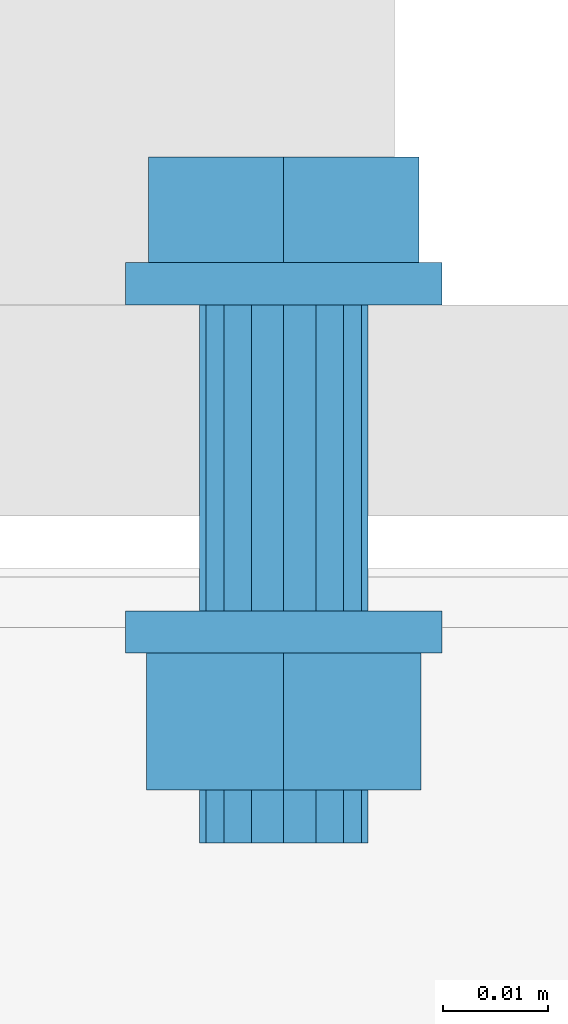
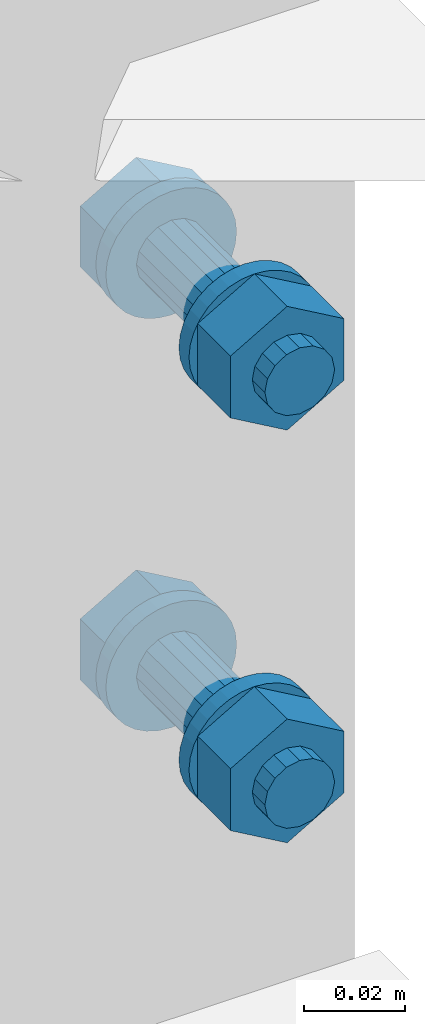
# One storey, part 21 of 21: 2 mechanical fasteners.
"""IFC4X3_ADD2 building model written with IfcOpenShell, lengths in millimetres."""

from ifc_helpers import new_model, entity, si_unit, converted_unit, derived_unit, direction, frame, origin, place, context, project, spatial, faceted_brep, element, save


model = new_model("IFC4X3_ADD2")

# Units and contexts
model_context = context("Model", 3, precision=0.01, world=origin(), true_north=direction((6.123233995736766e-17, 1.0)))
plan_context = context("Plan", 3, precision=0.01, world=origin(), true_north=direction((6.123233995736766e-17, 1.0)))
ifc_project = project(units=[si_unit("LENGTHUNIT", "METRE", prefix="MILLI"), converted_unit("PLANEANGLEUNIT", "DEGREE", entity("IfcPlaneAngleMeasure", 0.017453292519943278), si_unit("PLANEANGLEUNIT", "RADIAN"), dimensions=[0, 0, 0, 0, 0, 0, 0]), si_unit("AREAUNIT", "SQUARE_METRE"), si_unit("VOLUMEUNIT", "CUBIC_METRE"), derived_unit("THERMALTRANSMITTANCEUNIT", [(si_unit("MASSUNIT", "GRAM", prefix="KILO"), 1), (si_unit("THERMODYNAMICTEMPERATUREUNIT", "KELVIN"), -1), (si_unit("TIMEUNIT", "SECOND"), -3)]), derived_unit("USERDEFINED", [(si_unit("MASSUNIT", "GRAM", prefix="KILO"), 1), (si_unit("THERMODYNAMICTEMPERATUREUNIT", "KELVIN"), -1), (si_unit("TIMEUNIT", "SECOND"), -2)]), derived_unit("THERMALRESISTANCEUNIT", [(si_unit("MASSUNIT", "GRAM", prefix="KILO"), -1), (si_unit("TIMEUNIT", "SECOND"), 3), (si_unit("THERMODYNAMICTEMPERATUREUNIT", "KELVIN"), 1)]), si_unit("MASSUNIT", "GRAM", prefix="KILO"), derived_unit("MOMENTOFINERTIAUNIT", [(si_unit("LENGTHUNIT", "METRE"), 4)]), derived_unit("LINEARFORCEUNIT", [(si_unit("MASSUNIT", "GRAM", prefix="KILO"), 1), (si_unit("TIMEUNIT", "SECOND"), -2)]), derived_unit("WARPINGCONSTANTUNIT", [(si_unit("LENGTHUNIT", "METRE"), 6)]), si_unit("PRESSUREUNIT", "PASCAL"), derived_unit("MASSDENSITYUNIT", [(si_unit("MASSUNIT", "GRAM", prefix="KILO"), 1), (si_unit("LENGTHUNIT", "METRE"), -3)]), derived_unit("MODULUSOFELASTICITYUNIT", [(si_unit("MASSUNIT", "GRAM", prefix="KILO"), 1), (si_unit("TIMEUNIT", "SECOND"), -2), (si_unit("LENGTHUNIT", "METRE"), -1)]), derived_unit("THERMALEXPANSIONCOEFFICIENTUNIT", [(si_unit("THERMODYNAMICTEMPERATUREUNIT", "KELVIN"), -1)]), derived_unit("VAPORPERMEABILITYUNIT", [(si_unit("LENGTHUNIT", "METRE"), -1), (si_unit("TIMEUNIT", "SECOND"), 1)]), derived_unit("USERDEFINED", [(si_unit("MASSUNIT", "GRAM", prefix="KILO"), 1), (si_unit("TIMEUNIT", "SECOND"), -3), (si_unit("LENGTHUNIT", "METRE"), 3), (si_unit("ELECTRICCURRENTUNIT", "AMPERE"), -2)]), derived_unit("SPECIFICHEATCAPACITYUNIT", [(si_unit("THERMODYNAMICTEMPERATUREUNIT", "KELVIN"), -1), (si_unit("TIMEUNIT", "SECOND"), -2), (si_unit("LENGTHUNIT", "METRE"), 2)]), derived_unit("THERMALCONDUCTANCEUNIT", [(si_unit("MASSUNIT", "GRAM", prefix="KILO"), 1), (si_unit("THERMODYNAMICTEMPERATUREUNIT", "KELVIN"), -1), (si_unit("TIMEUNIT", "SECOND"), -3), (si_unit("LENGTHUNIT", "METRE"), 1)])], contexts=[model_context, plan_context])

# Site, building, storey
site_placement = place(None, origin())
site = spatial("IfcSite", under=ifc_project, at=site_placement, Name="Default", CompositionType="ELEMENT")
building_placement = place(site_placement, origin())
building = spatial("IfcBuilding", under=site, at=building_placement, Name="Complex structure", CompositionType="ELEMENT")
storey_placement = place(building_placement, frame((0.0, 0.0, 3000.0)))
storey = spatial("IfcBuildingStorey", under=building, at=storey_placement, Name="Level 01", CompositionType="ELEMENT", Elevation=3000.0)

# Mechanical fasteners
mechanical_fastener_1_placement = place(storey_placement, frame((0.0, 0.0, -3000.0)))
element("IfcMechanicalFastener", 1, at=mechanical_fastener_1_placement, inside=storey, ObjectType="Bolt#7", NominalDiameter=16.0, NominalLength=55.0, context=model_context, shape_type="Brep", body=[
    faceted_brep([(-1081.026350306, -1182.866703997, 3703.0), (-1081.026350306, -1186.866703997, 3703.0), (-1081.3145711, -1186.866703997, 3700.07364517), (-1081.3145711, -1182.866703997, 3700.07364517), (-1082.168157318, -1186.866703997, 3697.259748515), (-1082.168157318, -1182.866703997, 3697.259748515), (-1083.554306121, -1186.866703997, 3694.666446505), (-1083.554306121, -1182.866703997, 3694.666446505), (-1085.419748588, -1186.866703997, 3692.393398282), (-1085.419748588, -1182.866703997, 3692.393398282), (-1087.692796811, -1186.866703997, 3690.527955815), (-1087.692796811, -1182.866703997, 3690.527955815), (-1090.28609882, -1186.866703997, 3689.141807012), (-1090.28609882, -1182.866703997, 3689.141807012), (-1093.099995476, -1186.866703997, 3688.288220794), (-1093.099995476, -1182.866703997, 3688.288220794), (-1096.026350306, -1186.866703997, 3688.0), (-1096.026350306, -1182.866703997, 3688.0), (-1098.952705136, -1186.866703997, 3688.288220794), (-1098.952705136, -1182.866703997, 3688.288220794), (-1101.766601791, -1186.866703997, 3689.141807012), (-1101.766601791, -1182.866703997, 3689.141807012), (-1104.359903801, -1186.866703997, 3690.527955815), (-1104.359903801, -1182.866703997, 3690.527955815), (-1106.632952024, -1186.866703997, 3692.393398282), (-1106.632952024, -1182.866703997, 3692.393398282), (-1108.49839449, -1186.866703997, 3694.666446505), (-1108.49839449, -1182.866703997, 3694.666446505), (-1109.884543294, -1186.866703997, 3697.259748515), (-1109.884543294, -1182.866703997, 3697.259748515), (-1110.738129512, -1186.866703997, 3700.07364517), (-1110.738129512, -1182.866703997, 3700.07364517), (-1111.026350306, -1186.866703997, 3703.0), (-1111.026350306, -1182.866703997, 3703.0), (-1110.738129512, -1186.866703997, 3705.92635483), (-1110.738129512, -1182.866703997, 3705.92635483), (-1109.884543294, -1186.866703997, 3708.740251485), (-1109.884543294, -1182.866703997, 3708.740251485), (-1108.49839449, -1186.866703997, 3711.333553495), (-1108.49839449, -1182.866703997, 3711.333553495), (-1106.632952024, -1186.866703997, 3713.606601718), (-1106.632952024, -1182.866703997, 3713.606601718), (-1104.359903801, -1186.866703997, 3715.472044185), (-1104.359903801, -1182.866703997, 3715.472044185), (-1101.766601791, -1186.866703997, 3716.858192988), (-1101.766601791, -1182.866703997, 3716.858192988), (-1098.952705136, -1186.866703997, 3717.711779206), (-1098.952705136, -1182.866703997, 3717.711779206), (-1096.026350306, -1186.866703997, 3718.0), (-1096.026350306, -1182.866703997, 3718.0), (-1093.099995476, -1186.866703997, 3717.711779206), (-1093.099995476, -1182.866703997, 3717.711779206), (-1090.28609882, -1186.866703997, 3716.858192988), (-1090.28609882, -1182.866703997, 3716.858192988), (-1087.692796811, -1186.866703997, 3715.472044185), (-1087.692796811, -1182.866703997, 3715.472044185), (-1085.419748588, -1186.866703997, 3713.606601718), (-1085.419748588, -1182.866703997, 3713.606601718), (-1083.554306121, -1186.866703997, 3711.333553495), (-1083.554306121, -1182.866703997, 3711.333553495), (-1082.168157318, -1186.866703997, 3708.740251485), (-1082.168157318, -1182.866703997, 3708.740251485), (-1081.3145711, -1186.866703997, 3705.92635483), (-1081.3145711, -1182.866703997, 3705.92635483)], [[[0, 1, 2, 3]], [[3, 2, 4, 5]], [[5, 4, 6, 7]], [[7, 6, 8, 9]], [[9, 8, 10, 11]], [[11, 10, 12, 13]], [[13, 12, 14, 15]], [[15, 14, 16, 17]], [[17, 16, 18, 19]], [[19, 18, 20, 21]], [[21, 20, 22, 23]], [[23, 22, 24, 25]], [[25, 24, 26, 27]], [[27, 26, 28, 29]], [[29, 28, 30, 31]], [[31, 30, 32, 33]], [[33, 32, 34, 35]], [[35, 34, 36, 37]], [[37, 36, 38, 39]], [[39, 38, 40, 41]], [[41, 40, 42, 43]], [[43, 42, 44, 45]], [[45, 44, 46, 47]], [[47, 46, 48, 49]], [[49, 48, 50, 51]], [[51, 50, 52, 53]], [[53, 52, 54, 55]], [[55, 54, 56, 57]], [[57, 56, 58, 59]], [[59, 58, 60, 61]], [[61, 60, 62, 63]], [[63, 62, 1, 0]], [[0, 3, 5, 7, 9, 11, 13, 15, 17, 19, 21, 23, 25, 27, 29, 31, 33, 35, 37, 39, 41, 43, 45, 47, 49, 51, 53, 55, 57, 59, 61, 63]], [[1, 62, 60, 58, 56, 54, 52, 50, 48, 46, 44, 42, 40, 38, 36, 34, 32, 30, 28, 26, 24, 22, 20, 18, 16, 14, 12, 10, 8, 6, 4, 2]]]),
    faceted_brep([(-1108.826205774, -1182.866703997, 3695.61), (-1108.826205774, -1172.866703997, 3695.61), (-1096.026350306, -1172.866703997, 3688.22), (-1096.026350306, -1182.866703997, 3688.22), (-1083.226494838, -1172.866703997, 3695.61), (-1083.226494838, -1182.866703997, 3695.61), (-1083.226494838, -1172.866703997, 3710.39), (-1083.226494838, -1182.866703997, 3710.39), (-1096.026350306, -1172.866703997, 3717.78), (-1096.026350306, -1182.866703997, 3717.78), (-1108.826205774, -1172.866703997, 3710.39), (-1108.826205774, -1182.866703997, 3710.39)], [[[0, 1, 2, 3]], [[3, 2, 4, 5]], [[5, 4, 6, 7]], [[7, 6, 8, 9]], [[9, 8, 10, 11]], [[11, 10, 1, 0]], [[4, 2, 1, 10, 8, 6]], [[0, 3, 5, 7, 9, 11]]]),
    faceted_brep([(-1088.026350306, -1186.866703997, 3703.0), (-1088.026350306, -1215.866703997, 3703.0), (-1088.635314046, -1215.866703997, 3699.938532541), (-1088.635314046, -1186.866703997, 3699.938532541), (-1090.369496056, -1215.866703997, 3697.343145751), (-1090.369496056, -1186.866703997, 3697.343145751), (-1092.964882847, -1215.866703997, 3695.60896374), (-1092.964882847, -1186.866703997, 3695.60896374), (-1096.026350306, -1215.866703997, 3695.0), (-1096.026350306, -1186.866703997, 3695.0), (-1099.087817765, -1215.866703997, 3695.60896374), (-1099.087817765, -1186.866703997, 3695.60896374), (-1101.683204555, -1215.866703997, 3697.343145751), (-1101.683204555, -1186.866703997, 3697.343145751), (-1103.417386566, -1215.866703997, 3699.938532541), (-1103.417386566, -1186.866703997, 3699.938532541), (-1104.026350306, -1215.866703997, 3703.0), (-1104.026350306, -1186.866703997, 3703.0), (-1103.417386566, -1215.866703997, 3706.061467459), (-1103.417386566, -1186.866703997, 3706.061467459), (-1101.683204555, -1215.866703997, 3708.656854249), (-1101.683204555, -1186.866703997, 3708.656854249), (-1099.087817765, -1215.866703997, 3710.39103626), (-1099.087817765, -1186.866703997, 3710.39103626), (-1096.026350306, -1215.866703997, 3711.0), (-1096.026350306, -1186.866703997, 3711.0), (-1092.964882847, -1215.866703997, 3710.39103626), (-1092.964882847, -1186.866703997, 3710.39103626), (-1090.369496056, -1215.866703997, 3708.656854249), (-1090.369496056, -1186.866703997, 3708.656854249), (-1088.635314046, -1215.866703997, 3706.061467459), (-1088.635314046, -1186.866703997, 3706.061467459)], [[[0, 1, 2, 3]], [[3, 2, 4, 5]], [[5, 4, 6, 7]], [[7, 6, 8, 9]], [[9, 8, 10, 11]], [[11, 10, 12, 13]], [[13, 12, 14, 15]], [[15, 14, 16, 17]], [[17, 16, 18, 19]], [[19, 18, 20, 21]], [[21, 20, 22, 23]], [[23, 22, 24, 25]], [[25, 24, 26, 27]], [[27, 26, 28, 29]], [[29, 28, 30, 31]], [[31, 30, 1, 0]], [[0, 3, 5, 7, 9, 11, 13, 15, 17, 19, 21, 23, 25, 27, 29, 31]], [[1, 30, 28, 26, 24, 22, 20, 18, 16, 14, 12, 10, 8, 6, 4, 2]]]),
    faceted_brep([(-1081.026350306, -1215.866703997, 3703.0), (-1081.026350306, -1219.866703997, 3703.0), (-1081.3145711, -1219.866703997, 3700.07364517), (-1081.3145711, -1215.866703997, 3700.07364517), (-1082.168157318, -1219.866703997, 3697.259748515), (-1082.168157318, -1215.866703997, 3697.259748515), (-1083.554306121, -1219.866703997, 3694.666446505), (-1083.554306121, -1215.866703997, 3694.666446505), (-1085.419748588, -1219.866703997, 3692.393398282), (-1085.419748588, -1215.866703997, 3692.393398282), (-1087.692796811, -1219.866703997, 3690.527955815), (-1087.692796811, -1215.866703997, 3690.527955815), (-1090.28609882, -1219.866703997, 3689.141807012), (-1090.28609882, -1215.866703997, 3689.141807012), (-1093.099995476, -1219.866703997, 3688.288220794), (-1093.099995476, -1215.866703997, 3688.288220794), (-1096.026350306, -1219.866703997, 3688.0), (-1096.026350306, -1215.866703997, 3688.0), (-1098.952705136, -1219.866703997, 3688.288220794), (-1098.952705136, -1215.866703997, 3688.288220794), (-1101.766601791, -1219.866703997, 3689.141807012), (-1101.766601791, -1215.866703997, 3689.141807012), (-1104.359903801, -1219.866703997, 3690.527955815), (-1104.359903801, -1215.866703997, 3690.527955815), (-1106.632952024, -1219.866703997, 3692.393398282), (-1106.632952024, -1215.866703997, 3692.393398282), (-1108.49839449, -1219.866703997, 3694.666446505), (-1108.49839449, -1215.866703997, 3694.666446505), (-1109.884543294, -1219.866703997, 3697.259748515), (-1109.884543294, -1215.866703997, 3697.259748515), (-1110.738129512, -1219.866703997, 3700.07364517), (-1110.738129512, -1215.866703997, 3700.07364517), (-1111.026350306, -1219.866703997, 3703.0), (-1111.026350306, -1215.866703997, 3703.0), (-1110.738129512, -1219.866703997, 3705.92635483), (-1110.738129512, -1215.866703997, 3705.92635483), (-1109.884543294, -1219.866703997, 3708.740251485), (-1109.884543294, -1215.866703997, 3708.740251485), (-1108.49839449, -1219.866703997, 3711.333553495), (-1108.49839449, -1215.866703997, 3711.333553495), (-1106.632952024, -1219.866703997, 3713.606601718), (-1106.632952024, -1215.866703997, 3713.606601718), (-1104.359903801, -1219.866703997, 3715.472044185), (-1104.359903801, -1215.866703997, 3715.472044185), (-1101.766601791, -1219.866703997, 3716.858192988), (-1101.766601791, -1215.866703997, 3716.858192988), (-1098.952705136, -1219.866703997, 3717.711779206), (-1098.952705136, -1215.866703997, 3717.711779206), (-1096.026350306, -1219.866703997, 3718.0), (-1096.026350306, -1215.866703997, 3718.0), (-1093.099995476, -1219.866703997, 3717.711779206), (-1093.099995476, -1215.866703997, 3717.711779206), (-1090.28609882, -1219.866703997, 3716.858192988), (-1090.28609882, -1215.866703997, 3716.858192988), (-1087.692796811, -1219.866703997, 3715.472044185), (-1087.692796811, -1215.866703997, 3715.472044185), (-1085.419748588, -1219.866703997, 3713.606601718), (-1085.419748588, -1215.866703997, 3713.606601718), (-1083.554306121, -1219.866703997, 3711.333553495), (-1083.554306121, -1215.866703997, 3711.333553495), (-1082.168157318, -1219.866703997, 3708.740251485), (-1082.168157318, -1215.866703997, 3708.740251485), (-1081.3145711, -1219.866703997, 3705.92635483), (-1081.3145711, -1215.866703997, 3705.92635483)], [[[0, 1, 2, 3]], [[3, 2, 4, 5]], [[5, 4, 6, 7]], [[7, 6, 8, 9]], [[9, 8, 10, 11]], [[11, 10, 12, 13]], [[13, 12, 14, 15]], [[15, 14, 16, 17]], [[17, 16, 18, 19]], [[19, 18, 20, 21]], [[21, 20, 22, 23]], [[23, 22, 24, 25]], [[25, 24, 26, 27]], [[27, 26, 28, 29]], [[29, 28, 30, 31]], [[31, 30, 32, 33]], [[33, 32, 34, 35]], [[35, 34, 36, 37]], [[37, 36, 38, 39]], [[39, 38, 40, 41]], [[41, 40, 42, 43]], [[43, 42, 44, 45]], [[45, 44, 46, 47]], [[47, 46, 48, 49]], [[49, 48, 50, 51]], [[51, 50, 52, 53]], [[53, 52, 54, 55]], [[55, 54, 56, 57]], [[57, 56, 58, 59]], [[59, 58, 60, 61]], [[61, 60, 62, 63]], [[63, 62, 1, 0]], [[0, 3, 5, 7, 9, 11, 13, 15, 17, 19, 21, 23, 25, 27, 29, 31, 33, 35, 37, 39, 41, 43, 45, 47, 49, 51, 53, 55, 57, 59, 61, 63]], [[1, 62, 60, 58, 56, 54, 52, 50, 48, 46, 44, 42, 40, 38, 36, 34, 32, 30, 28, 26, 24, 22, 20, 18, 16, 14, 12, 10, 8, 6, 4, 2]]]),
    faceted_brep([(-1109.016731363, -1232.866703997, 3695.5), (-1109.016731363, -1219.866703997, 3695.5), (-1096.026350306, -1219.866703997, 3688.0), (-1096.026350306, -1232.866703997, 3688.0), (-1083.035969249, -1219.866703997, 3695.5), (-1083.035969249, -1232.866703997, 3695.5), (-1083.035969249, -1219.866703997, 3710.5), (-1083.035969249, -1232.866703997, 3710.5), (-1096.026350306, -1219.866703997, 3718.0), (-1096.026350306, -1232.866703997, 3718.0), (-1109.016731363, -1219.866703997, 3710.5), (-1109.016731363, -1232.866703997, 3710.5)], [[[0, 1, 2, 3]], [[3, 2, 4, 5]], [[5, 4, 6, 7]], [[7, 6, 8, 9]], [[9, 8, 10, 11]], [[11, 10, 1, 0]], [[4, 2, 1, 10, 8, 6]], [[0, 3, 5, 7, 9, 11]]]),
    faceted_brep([(-1088.026350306, -1232.866703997, 3703.0), (-1088.026350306, -1237.866703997, 3703.0), (-1088.635314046, -1237.866703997, 3699.938532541), (-1088.635314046, -1232.866703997, 3699.938532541), (-1090.369496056, -1237.866703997, 3697.343145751), (-1090.369496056, -1232.866703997, 3697.343145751), (-1092.964882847, -1237.866703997, 3695.60896374), (-1092.964882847, -1232.866703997, 3695.60896374), (-1096.026350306, -1237.866703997, 3695.0), (-1096.026350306, -1232.866703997, 3695.0), (-1099.087817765, -1237.866703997, 3695.60896374), (-1099.087817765, -1232.866703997, 3695.60896374), (-1101.683204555, -1237.866703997, 3697.343145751), (-1101.683204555, -1232.866703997, 3697.343145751), (-1103.417386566, -1237.866703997, 3699.938532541), (-1103.417386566, -1232.866703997, 3699.938532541), (-1104.026350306, -1237.866703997, 3703.0), (-1104.026350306, -1232.866703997, 3703.0), (-1103.417386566, -1237.866703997, 3706.061467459), (-1103.417386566, -1232.866703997, 3706.061467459), (-1101.683204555, -1237.866703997, 3708.656854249), (-1101.683204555, -1232.866703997, 3708.656854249), (-1099.087817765, -1237.866703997, 3710.39103626), (-1099.087817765, -1232.866703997, 3710.39103626), (-1096.026350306, -1237.866703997, 3711.0), (-1096.026350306, -1232.866703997, 3711.0), (-1092.964882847, -1237.866703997, 3710.39103626), (-1092.964882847, -1232.866703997, 3710.39103626), (-1090.369496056, -1237.866703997, 3708.656854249), (-1090.369496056, -1232.866703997, 3708.656854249), (-1088.635314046, -1237.866703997, 3706.061467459), (-1088.635314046, -1232.866703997, 3706.061467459)], [[[0, 1, 2, 3]], [[3, 2, 4, 5]], [[5, 4, 6, 7]], [[7, 6, 8, 9]], [[9, 8, 10, 11]], [[11, 10, 12, 13]], [[13, 12, 14, 15]], [[15, 14, 16, 17]], [[17, 16, 18, 19]], [[19, 18, 20, 21]], [[21, 20, 22, 23]], [[23, 22, 24, 25]], [[25, 24, 26, 27]], [[27, 26, 28, 29]], [[29, 28, 30, 31]], [[31, 30, 1, 0]], [[0, 3, 5, 7, 9, 11, 13, 15, 17, 19, 21, 23, 25, 27, 29, 31]], [[1, 30, 28, 26, 24, 22, 20, 18, 16, 14, 12, 10, 8, 6, 4, 2]]]),
])
mechanical_fastener_2_placement = place(storey_placement, frame((0.0, 0.0, -3000.0)))
element("IfcMechanicalFastener", 2, at=mechanical_fastener_2_placement, inside=storey, ObjectType="Bolt#8", NominalDiameter=16.0, NominalLength=55.0, context=model_context, shape_type="Brep", body=[
    faceted_brep([(-1081.026350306, -1182.866703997, 3603.0), (-1081.026350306, -1186.866703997, 3603.0), (-1081.3145711, -1186.866703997, 3600.07364517), (-1081.3145711, -1182.866703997, 3600.07364517), (-1082.168157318, -1186.866703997, 3597.259748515), (-1082.168157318, -1182.866703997, 3597.259748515), (-1083.554306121, -1186.866703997, 3594.666446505), (-1083.554306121, -1182.866703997, 3594.666446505), (-1085.419748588, -1186.866703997, 3592.393398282), (-1085.419748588, -1182.866703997, 3592.393398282), (-1087.692796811, -1186.866703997, 3590.527955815), (-1087.692796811, -1182.866703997, 3590.527955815), (-1090.28609882, -1186.866703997, 3589.141807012), (-1090.28609882, -1182.866703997, 3589.141807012), (-1093.099995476, -1186.866703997, 3588.288220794), (-1093.099995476, -1182.866703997, 3588.288220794), (-1096.026350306, -1186.866703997, 3588.0), (-1096.026350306, -1182.866703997, 3588.0), (-1098.952705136, -1186.866703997, 3588.288220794), (-1098.952705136, -1182.866703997, 3588.288220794), (-1101.766601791, -1186.866703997, 3589.141807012), (-1101.766601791, -1182.866703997, 3589.141807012), (-1104.359903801, -1186.866703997, 3590.527955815), (-1104.359903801, -1182.866703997, 3590.527955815), (-1106.632952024, -1186.866703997, 3592.393398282), (-1106.632952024, -1182.866703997, 3592.393398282), (-1108.49839449, -1186.866703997, 3594.666446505), (-1108.49839449, -1182.866703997, 3594.666446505), (-1109.884543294, -1186.866703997, 3597.259748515), (-1109.884543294, -1182.866703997, 3597.259748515), (-1110.738129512, -1186.866703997, 3600.07364517), (-1110.738129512, -1182.866703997, 3600.07364517), (-1111.026350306, -1186.866703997, 3603.0), (-1111.026350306, -1182.866703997, 3603.0), (-1110.738129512, -1186.866703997, 3605.92635483), (-1110.738129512, -1182.866703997, 3605.92635483), (-1109.884543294, -1186.866703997, 3608.740251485), (-1109.884543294, -1182.866703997, 3608.740251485), (-1108.49839449, -1186.866703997, 3611.333553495), (-1108.49839449, -1182.866703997, 3611.333553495), (-1106.632952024, -1186.866703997, 3613.606601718), (-1106.632952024, -1182.866703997, 3613.606601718), (-1104.359903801, -1186.866703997, 3615.472044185), (-1104.359903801, -1182.866703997, 3615.472044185), (-1101.766601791, -1186.866703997, 3616.858192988), (-1101.766601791, -1182.866703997, 3616.858192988), (-1098.952705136, -1186.866703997, 3617.711779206), (-1098.952705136, -1182.866703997, 3617.711779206), (-1096.026350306, -1186.866703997, 3618.0), (-1096.026350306, -1182.866703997, 3618.0), (-1093.099995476, -1186.866703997, 3617.711779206), (-1093.099995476, -1182.866703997, 3617.711779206), (-1090.28609882, -1186.866703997, 3616.858192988), (-1090.28609882, -1182.866703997, 3616.858192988), (-1087.692796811, -1186.866703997, 3615.472044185), (-1087.692796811, -1182.866703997, 3615.472044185), (-1085.419748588, -1186.866703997, 3613.606601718), (-1085.419748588, -1182.866703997, 3613.606601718), (-1083.554306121, -1186.866703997, 3611.333553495), (-1083.554306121, -1182.866703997, 3611.333553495), (-1082.168157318, -1186.866703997, 3608.740251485), (-1082.168157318, -1182.866703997, 3608.740251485), (-1081.3145711, -1186.866703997, 3605.92635483), (-1081.3145711, -1182.866703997, 3605.92635483)], [[[0, 1, 2, 3]], [[3, 2, 4, 5]], [[5, 4, 6, 7]], [[7, 6, 8, 9]], [[9, 8, 10, 11]], [[11, 10, 12, 13]], [[13, 12, 14, 15]], [[15, 14, 16, 17]], [[17, 16, 18, 19]], [[19, 18, 20, 21]], [[21, 20, 22, 23]], [[23, 22, 24, 25]], [[25, 24, 26, 27]], [[27, 26, 28, 29]], [[29, 28, 30, 31]], [[31, 30, 32, 33]], [[33, 32, 34, 35]], [[35, 34, 36, 37]], [[37, 36, 38, 39]], [[39, 38, 40, 41]], [[41, 40, 42, 43]], [[43, 42, 44, 45]], [[45, 44, 46, 47]], [[47, 46, 48, 49]], [[49, 48, 50, 51]], [[51, 50, 52, 53]], [[53, 52, 54, 55]], [[55, 54, 56, 57]], [[57, 56, 58, 59]], [[59, 58, 60, 61]], [[61, 60, 62, 63]], [[63, 62, 1, 0]], [[0, 3, 5, 7, 9, 11, 13, 15, 17, 19, 21, 23, 25, 27, 29, 31, 33, 35, 37, 39, 41, 43, 45, 47, 49, 51, 53, 55, 57, 59, 61, 63]], [[1, 62, 60, 58, 56, 54, 52, 50, 48, 46, 44, 42, 40, 38, 36, 34, 32, 30, 28, 26, 24, 22, 20, 18, 16, 14, 12, 10, 8, 6, 4, 2]]]),
    faceted_brep([(-1108.826205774, -1182.866703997, 3595.61), (-1108.826205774, -1172.866703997, 3595.61), (-1096.026350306, -1172.866703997, 3588.22), (-1096.026350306, -1182.866703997, 3588.22), (-1083.226494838, -1172.866703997, 3595.61), (-1083.226494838, -1182.866703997, 3595.61), (-1083.226494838, -1172.866703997, 3610.39), (-1083.226494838, -1182.866703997, 3610.39), (-1096.026350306, -1172.866703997, 3617.78), (-1096.026350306, -1182.866703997, 3617.78), (-1108.826205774, -1172.866703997, 3610.39), (-1108.826205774, -1182.866703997, 3610.39)], [[[0, 1, 2, 3]], [[3, 2, 4, 5]], [[5, 4, 6, 7]], [[7, 6, 8, 9]], [[9, 8, 10, 11]], [[11, 10, 1, 0]], [[4, 2, 1, 10, 8, 6]], [[0, 3, 5, 7, 9, 11]]]),
    faceted_brep([(-1088.026350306, -1186.866703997, 3603.0), (-1088.026350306, -1215.866703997, 3603.0), (-1088.635314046, -1215.866703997, 3599.938532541), (-1088.635314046, -1186.866703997, 3599.938532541), (-1090.369496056, -1215.866703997, 3597.343145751), (-1090.369496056, -1186.866703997, 3597.343145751), (-1092.964882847, -1215.866703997, 3595.60896374), (-1092.964882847, -1186.866703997, 3595.60896374), (-1096.026350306, -1215.866703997, 3595.0), (-1096.026350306, -1186.866703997, 3595.0), (-1099.087817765, -1215.866703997, 3595.60896374), (-1099.087817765, -1186.866703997, 3595.60896374), (-1101.683204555, -1215.866703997, 3597.343145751), (-1101.683204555, -1186.866703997, 3597.343145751), (-1103.417386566, -1215.866703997, 3599.938532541), (-1103.417386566, -1186.866703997, 3599.938532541), (-1104.026350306, -1215.866703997, 3603.0), (-1104.026350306, -1186.866703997, 3603.0), (-1103.417386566, -1215.866703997, 3606.061467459), (-1103.417386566, -1186.866703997, 3606.061467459), (-1101.683204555, -1215.866703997, 3608.656854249), (-1101.683204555, -1186.866703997, 3608.656854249), (-1099.087817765, -1215.866703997, 3610.39103626), (-1099.087817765, -1186.866703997, 3610.39103626), (-1096.026350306, -1215.866703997, 3611.0), (-1096.026350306, -1186.866703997, 3611.0), (-1092.964882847, -1215.866703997, 3610.39103626), (-1092.964882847, -1186.866703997, 3610.39103626), (-1090.369496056, -1215.866703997, 3608.656854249), (-1090.369496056, -1186.866703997, 3608.656854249), (-1088.635314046, -1215.866703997, 3606.061467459), (-1088.635314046, -1186.866703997, 3606.061467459)], [[[0, 1, 2, 3]], [[3, 2, 4, 5]], [[5, 4, 6, 7]], [[7, 6, 8, 9]], [[9, 8, 10, 11]], [[11, 10, 12, 13]], [[13, 12, 14, 15]], [[15, 14, 16, 17]], [[17, 16, 18, 19]], [[19, 18, 20, 21]], [[21, 20, 22, 23]], [[23, 22, 24, 25]], [[25, 24, 26, 27]], [[27, 26, 28, 29]], [[29, 28, 30, 31]], [[31, 30, 1, 0]], [[0, 3, 5, 7, 9, 11, 13, 15, 17, 19, 21, 23, 25, 27, 29, 31]], [[1, 30, 28, 26, 24, 22, 20, 18, 16, 14, 12, 10, 8, 6, 4, 2]]]),
    faceted_brep([(-1081.026350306, -1215.866703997, 3603.0), (-1081.026350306, -1219.866703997, 3603.0), (-1081.3145711, -1219.866703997, 3600.07364517), (-1081.3145711, -1215.866703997, 3600.07364517), (-1082.168157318, -1219.866703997, 3597.259748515), (-1082.168157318, -1215.866703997, 3597.259748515), (-1083.554306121, -1219.866703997, 3594.666446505), (-1083.554306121, -1215.866703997, 3594.666446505), (-1085.419748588, -1219.866703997, 3592.393398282), (-1085.419748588, -1215.866703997, 3592.393398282), (-1087.692796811, -1219.866703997, 3590.527955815), (-1087.692796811, -1215.866703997, 3590.527955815), (-1090.28609882, -1219.866703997, 3589.141807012), (-1090.28609882, -1215.866703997, 3589.141807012), (-1093.099995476, -1219.866703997, 3588.288220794), (-1093.099995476, -1215.866703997, 3588.288220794), (-1096.026350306, -1219.866703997, 3588.0), (-1096.026350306, -1215.866703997, 3588.0), (-1098.952705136, -1219.866703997, 3588.288220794), (-1098.952705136, -1215.866703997, 3588.288220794), (-1101.766601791, -1219.866703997, 3589.141807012), (-1101.766601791, -1215.866703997, 3589.141807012), (-1104.359903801, -1219.866703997, 3590.527955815), (-1104.359903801, -1215.866703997, 3590.527955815), (-1106.632952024, -1219.866703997, 3592.393398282), (-1106.632952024, -1215.866703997, 3592.393398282), (-1108.49839449, -1219.866703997, 3594.666446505), (-1108.49839449, -1215.866703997, 3594.666446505), (-1109.884543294, -1219.866703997, 3597.259748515), (-1109.884543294, -1215.866703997, 3597.259748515), (-1110.738129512, -1219.866703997, 3600.07364517), (-1110.738129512, -1215.866703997, 3600.07364517), (-1111.026350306, -1219.866703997, 3603.0), (-1111.026350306, -1215.866703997, 3603.0), (-1110.738129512, -1219.866703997, 3605.92635483), (-1110.738129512, -1215.866703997, 3605.92635483), (-1109.884543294, -1219.866703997, 3608.740251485), (-1109.884543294, -1215.866703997, 3608.740251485), (-1108.49839449, -1219.866703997, 3611.333553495), (-1108.49839449, -1215.866703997, 3611.333553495), (-1106.632952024, -1219.866703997, 3613.606601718), (-1106.632952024, -1215.866703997, 3613.606601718), (-1104.359903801, -1219.866703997, 3615.472044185), (-1104.359903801, -1215.866703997, 3615.472044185), (-1101.766601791, -1219.866703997, 3616.858192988), (-1101.766601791, -1215.866703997, 3616.858192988), (-1098.952705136, -1219.866703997, 3617.711779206), (-1098.952705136, -1215.866703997, 3617.711779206), (-1096.026350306, -1219.866703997, 3618.0), (-1096.026350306, -1215.866703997, 3618.0), (-1093.099995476, -1219.866703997, 3617.711779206), (-1093.099995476, -1215.866703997, 3617.711779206), (-1090.28609882, -1219.866703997, 3616.858192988), (-1090.28609882, -1215.866703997, 3616.858192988), (-1087.692796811, -1219.866703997, 3615.472044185), (-1087.692796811, -1215.866703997, 3615.472044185), (-1085.419748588, -1219.866703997, 3613.606601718), (-1085.419748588, -1215.866703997, 3613.606601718), (-1083.554306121, -1219.866703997, 3611.333553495), (-1083.554306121, -1215.866703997, 3611.333553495), (-1082.168157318, -1219.866703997, 3608.740251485), (-1082.168157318, -1215.866703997, 3608.740251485), (-1081.3145711, -1219.866703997, 3605.92635483), (-1081.3145711, -1215.866703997, 3605.92635483)], [[[0, 1, 2, 3]], [[3, 2, 4, 5]], [[5, 4, 6, 7]], [[7, 6, 8, 9]], [[9, 8, 10, 11]], [[11, 10, 12, 13]], [[13, 12, 14, 15]], [[15, 14, 16, 17]], [[17, 16, 18, 19]], [[19, 18, 20, 21]], [[21, 20, 22, 23]], [[23, 22, 24, 25]], [[25, 24, 26, 27]], [[27, 26, 28, 29]], [[29, 28, 30, 31]], [[31, 30, 32, 33]], [[33, 32, 34, 35]], [[35, 34, 36, 37]], [[37, 36, 38, 39]], [[39, 38, 40, 41]], [[41, 40, 42, 43]], [[43, 42, 44, 45]], [[45, 44, 46, 47]], [[47, 46, 48, 49]], [[49, 48, 50, 51]], [[51, 50, 52, 53]], [[53, 52, 54, 55]], [[55, 54, 56, 57]], [[57, 56, 58, 59]], [[59, 58, 60, 61]], [[61, 60, 62, 63]], [[63, 62, 1, 0]], [[0, 3, 5, 7, 9, 11, 13, 15, 17, 19, 21, 23, 25, 27, 29, 31, 33, 35, 37, 39, 41, 43, 45, 47, 49, 51, 53, 55, 57, 59, 61, 63]], [[1, 62, 60, 58, 56, 54, 52, 50, 48, 46, 44, 42, 40, 38, 36, 34, 32, 30, 28, 26, 24, 22, 20, 18, 16, 14, 12, 10, 8, 6, 4, 2]]]),
    faceted_brep([(-1109.016731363, -1232.866703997, 3595.5), (-1109.016731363, -1219.866703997, 3595.5), (-1096.026350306, -1219.866703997, 3588.0), (-1096.026350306, -1232.866703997, 3588.0), (-1083.035969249, -1219.866703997, 3595.5), (-1083.035969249, -1232.866703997, 3595.5), (-1083.035969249, -1219.866703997, 3610.5), (-1083.035969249, -1232.866703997, 3610.5), (-1096.026350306, -1219.866703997, 3618.0), (-1096.026350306, -1232.866703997, 3618.0), (-1109.016731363, -1219.866703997, 3610.5), (-1109.016731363, -1232.866703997, 3610.5)], [[[0, 1, 2, 3]], [[3, 2, 4, 5]], [[5, 4, 6, 7]], [[7, 6, 8, 9]], [[9, 8, 10, 11]], [[11, 10, 1, 0]], [[4, 2, 1, 10, 8, 6]], [[0, 3, 5, 7, 9, 11]]]),
    faceted_brep([(-1088.026350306, -1232.866703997, 3603.0), (-1088.026350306, -1237.866703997, 3603.0), (-1088.635314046, -1237.866703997, 3599.938532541), (-1088.635314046, -1232.866703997, 3599.938532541), (-1090.369496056, -1237.866703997, 3597.343145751), (-1090.369496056, -1232.866703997, 3597.343145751), (-1092.964882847, -1237.866703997, 3595.60896374), (-1092.964882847, -1232.866703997, 3595.60896374), (-1096.026350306, -1237.866703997, 3595.0), (-1096.026350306, -1232.866703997, 3595.0), (-1099.087817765, -1237.866703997, 3595.60896374), (-1099.087817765, -1232.866703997, 3595.60896374), (-1101.683204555, -1237.866703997, 3597.343145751), (-1101.683204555, -1232.866703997, 3597.343145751), (-1103.417386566, -1237.866703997, 3599.938532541), (-1103.417386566, -1232.866703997, 3599.938532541), (-1104.026350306, -1237.866703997, 3603.0), (-1104.026350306, -1232.866703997, 3603.0), (-1103.417386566, -1237.866703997, 3606.061467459), (-1103.417386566, -1232.866703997, 3606.061467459), (-1101.683204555, -1237.866703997, 3608.656854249), (-1101.683204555, -1232.866703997, 3608.656854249), (-1099.087817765, -1237.866703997, 3610.39103626), (-1099.087817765, -1232.866703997, 3610.39103626), (-1096.026350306, -1237.866703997, 3611.0), (-1096.026350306, -1232.866703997, 3611.0), (-1092.964882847, -1237.866703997, 3610.39103626), (-1092.964882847, -1232.866703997, 3610.39103626), (-1090.369496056, -1237.866703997, 3608.656854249), (-1090.369496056, -1232.866703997, 3608.656854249), (-1088.635314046, -1237.866703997, 3606.061467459), (-1088.635314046, -1232.866703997, 3606.061467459)], [[[0, 1, 2, 3]], [[3, 2, 4, 5]], [[5, 4, 6, 7]], [[7, 6, 8, 9]], [[9, 8, 10, 11]], [[11, 10, 12, 13]], [[13, 12, 14, 15]], [[15, 14, 16, 17]], [[17, 16, 18, 19]], [[19, 18, 20, 21]], [[21, 20, 22, 23]], [[23, 22, 24, 25]], [[25, 24, 26, 27]], [[27, 26, 28, 29]], [[29, 28, 30, 31]], [[31, 30, 1, 0]], [[0, 3, 5, 7, 9, 11, 13, 15, 17, 19, 21, 23, 25, 27, 29, 31]], [[1, 30, 28, 26, 24, 22, 20, 18, 16, 14, 12, 10, 8, 6, 4, 2]]]),
])

save(model, "model.ifc")
